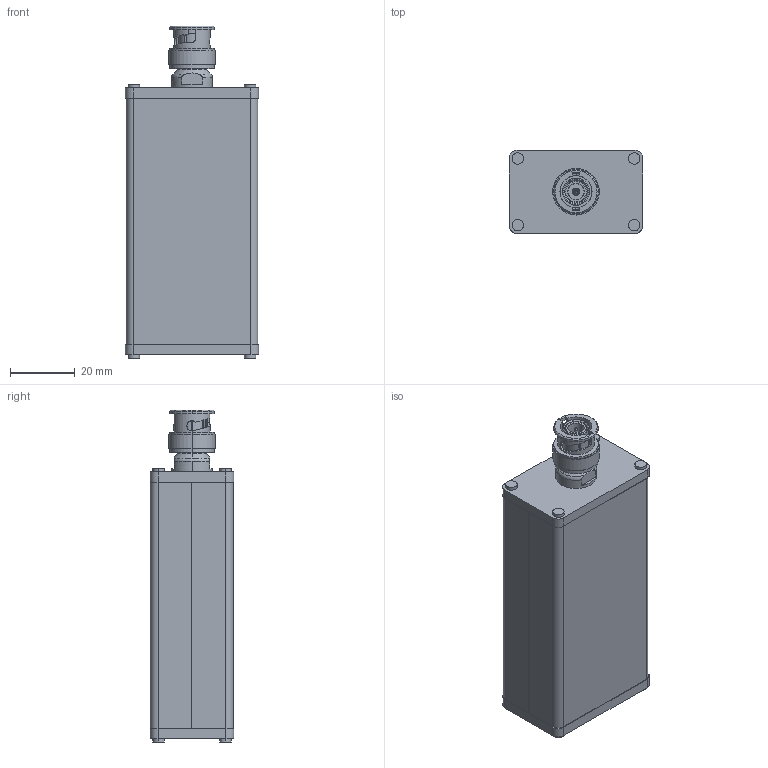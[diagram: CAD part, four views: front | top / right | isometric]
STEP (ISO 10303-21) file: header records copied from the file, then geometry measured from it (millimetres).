
FILE_DESCRIPTION((''),'2;1');
FILE_NAME('P6015A_COMP_REG_ASM','2018-07-03T',('mdevin'),(''),'CREO PARAMETRIC BY PTC INC, 2016050','CREO PARAMETRIC BY PTC INC, 2016050','');
FILE_SCHEMA(('CONFIG_CONTROL_DESIGN'));
Length unit declared in the file: inch
Products named in the file (14): 380-1010-00; 386-6252-00; 131-0602-00_1; 131-0602-00_2; 131-0602-00_3; 131-0602-00_4; 131-0602-00_5; 131-0602-00_6; 131-0602-00_8; 131-0602-00_ASM; 211-0001-00; 211-0008-00; 380100900; P6015A_COMP_REG_ASM
Assembly tree (22 placements, depth 3):
  P6015A_COMP_REG_ASM
    380-1010-00
    386-6252-00  x2
    131-0602-00_ASM
      131-0602-00_1
      131-0602-00_2
      131-0602-00_3
      131-0602-00_4
      131-0602-00_5
      131-0602-00_6
      131-0602-00_8
    211-0001-00  x8
    211-0008-00  x2
    380100900
Bounding box: 41.17 x 25.81 x 102.72 mm (x, y, z)
Volume: 27378.3 mm3; surface area: 30194.3 mm2
Topology: 21 solids, 21 shells, 396 faces, 958 edges, 614 vertices
Faces by surface type: cylinder 196, plane 148, cone 38, torus 10, sphere 4
Entity records: 12026 total; most frequent: CARTESIAN_POINT 2043, DIRECTION 1808, ORIENTED_EDGE 1564, EDGE_CURVE 782, AXIS2_PLACEMENT_3D 714, VERTEX_POINT 513, PRESENTATION_STYLE_ASSIGNMENT 492, STYLED_ITEM 492
